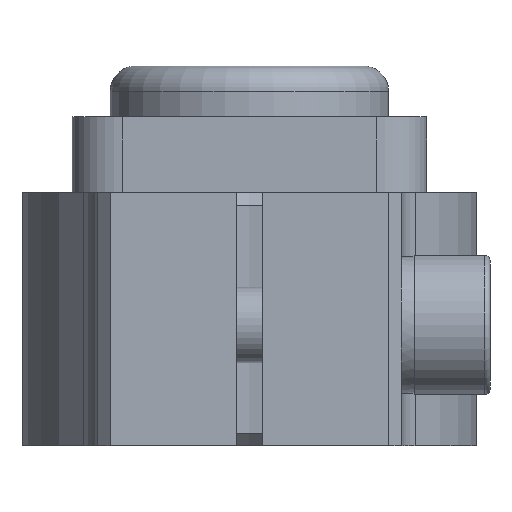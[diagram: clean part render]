
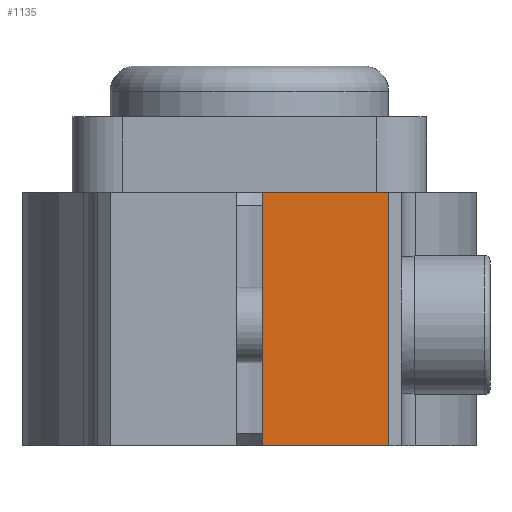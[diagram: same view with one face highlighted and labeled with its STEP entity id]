
A CAD part, front view. The second image highlights one B-rep face of the part: STEP entity #1135.
In plain terms, the highlighted planar face has unit normal (0, -1, 0).
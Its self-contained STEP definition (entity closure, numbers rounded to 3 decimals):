
#59=PLANE('',#1271);
#136=FACE_OUTER_BOUND('',#203,.T.);
#203=EDGE_LOOP('',(#981,#982,#983,#984));
#256=LINE('',#1808,#348);
#263=LINE('',#1837,#355);
#298=LINE('',#1923,#390);
#299=LINE('',#1924,#391);
#348=VECTOR('',#1473,10.);
#355=VECTOR('',#1498,10.);
#390=VECTOR('',#1591,10.);
#391=VECTOR('',#1592,10.);
#517=VERTEX_POINT('',#1805);
#518=VERTEX_POINT('',#1807);
#531=VERTEX_POINT('',#1836);
#553=VERTEX_POINT('',#1922);
#643=EDGE_CURVE('',#518,#517,#256,.T.);
#658=EDGE_CURVE('',#518,#531,#263,.T.);
#702=EDGE_CURVE('',#553,#517,#298,.T.);
#703=EDGE_CURVE('',#553,#531,#299,.T.);
#981=ORIENTED_EDGE('',*,*,#658,.F.);
#982=ORIENTED_EDGE('',*,*,#643,.T.);
#983=ORIENTED_EDGE('',*,*,#702,.F.);
#984=ORIENTED_EDGE('',*,*,#703,.T.);
#1135=ADVANCED_FACE('',(#136),#59,.T.);
#1271=AXIS2_PLACEMENT_3D('',#1921,#1589,#1590);
#1473=DIRECTION('',(-1.,0.,0.));
#1498=DIRECTION('',(0.,0.,-1.));
#1589=DIRECTION('center_axis',(0.,-1.,0.));
#1590=DIRECTION('ref_axis',(0.,0.,-1.));
#1591=DIRECTION('',(0.,0.,1.));
#1592=DIRECTION('',(1.,0.,0.));
#1805=CARTESIAN_POINT('',(0.5,-14.,10.));
#1807=CARTESIAN_POINT('',(5.5,-14.,10.));
#1808=CARTESIAN_POINT('',(0.5,-14.,10.));
#1836=CARTESIAN_POINT('',(5.5,-14.,0.));
#1837=CARTESIAN_POINT('',(5.5,-14.,0.));
#1921=CARTESIAN_POINT('Origin',(6.,-14.,0.));
#1922=CARTESIAN_POINT('',(0.5,-14.,0.));
#1923=CARTESIAN_POINT('',(0.5,-14.,0.));
#1924=CARTESIAN_POINT('',(0.5,-14.,0.));
